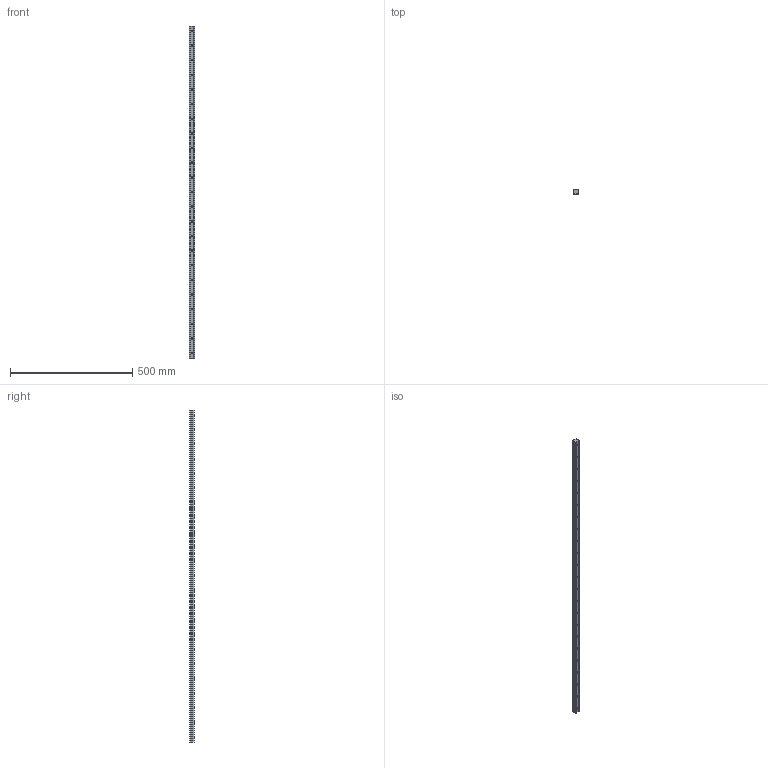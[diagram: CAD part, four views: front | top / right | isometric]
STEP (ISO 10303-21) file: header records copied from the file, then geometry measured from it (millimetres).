
FILE_DESCRIPTION (( 'STEP AP203' ), '1' );
FILE_NAME ('L1016.BRF25-1360.step', '2019-06-13T08:37:59', ( '' ), ( '' ), 'SwSTEP 2.0', 'SolidWorks 2017', '' );
FILE_SCHEMA (( 'CONFIG_CONTROL_DESIGN' ));
Length unit declared in the file: millimetre
Products named in the file (1): L1016.BRF25-1360
Bounding box: 23 x 19.2 x 1360 mm (x, y, z)
Volume: 519180.3 mm3; surface area: 125622 mm2
Topology: 1 solids, 1 shells, 187 faces, 440 edges, 255 vertices
Faces by surface type: cylinder 96, cone 46, plane 45
Entity records: 5133 total; most frequent: DIRECTION 962, CARTESIAN_POINT 837, ORIENTED_EDGE 788, EDGE_CURVE 394, AXIS2_PLACEMENT_3D 380, VERTEX_POINT 255, EDGE_LOOP 233, LINE 202
